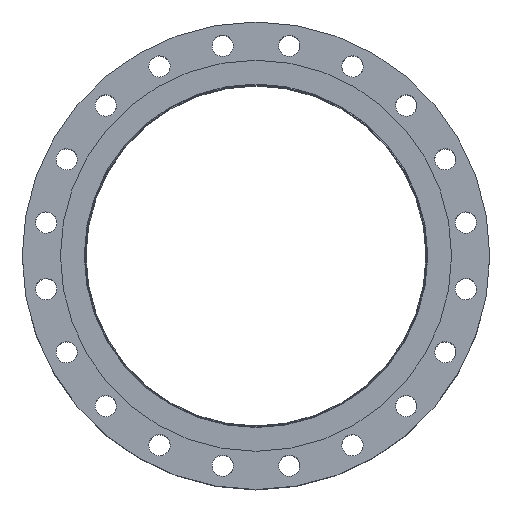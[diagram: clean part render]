
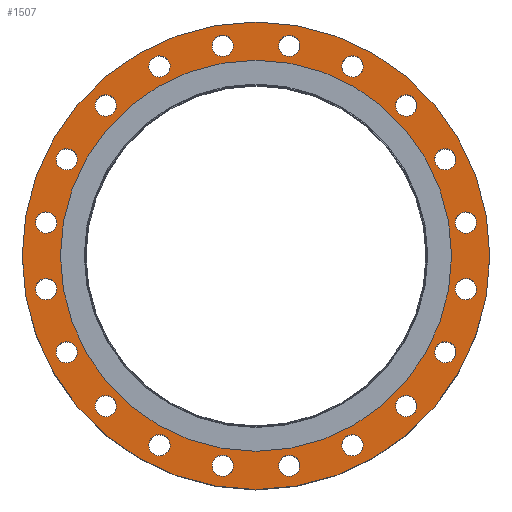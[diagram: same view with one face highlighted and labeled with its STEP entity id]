
A CAD part, top view. The second image highlights one B-rep face of the part: STEP entity #1507.
In plain terms, the highlighted planar face has unit normal (0, 0, 1).
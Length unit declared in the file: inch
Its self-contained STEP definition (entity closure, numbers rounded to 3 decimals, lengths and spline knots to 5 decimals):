
#96=FACE_BOUND('',#391,.T.);
#97=FACE_BOUND('',#392,.T.);
#98=FACE_BOUND('',#393,.T.);
#99=FACE_BOUND('',#394,.T.);
#100=FACE_BOUND('',#395,.T.);
#101=FACE_BOUND('',#396,.T.);
#102=FACE_BOUND('',#397,.T.);
#103=FACE_BOUND('',#398,.T.);
#104=FACE_BOUND('',#399,.T.);
#105=FACE_BOUND('',#400,.T.);
#106=FACE_BOUND('',#401,.T.);
#107=FACE_BOUND('',#402,.T.);
#108=FACE_BOUND('',#403,.T.);
#109=FACE_BOUND('',#404,.T.);
#110=FACE_BOUND('',#405,.T.);
#111=FACE_BOUND('',#406,.T.);
#112=FACE_BOUND('',#407,.T.);
#113=FACE_BOUND('',#408,.T.);
#114=FACE_BOUND('',#409,.T.);
#115=FACE_BOUND('',#410,.T.);
#116=FACE_BOUND('',#411,.T.);
#158=PLANE('',#1716);
#261=FACE_OUTER_BOUND('',#390,.T.);
#390=EDGE_LOOP('',(#1197));
#391=EDGE_LOOP('',(#1198));
#392=EDGE_LOOP('',(#1199));
#393=EDGE_LOOP('',(#1200));
#394=EDGE_LOOP('',(#1201));
#395=EDGE_LOOP('',(#1202));
#396=EDGE_LOOP('',(#1203));
#397=EDGE_LOOP('',(#1204));
#398=EDGE_LOOP('',(#1205));
#399=EDGE_LOOP('',(#1206));
#400=EDGE_LOOP('',(#1207));
#401=EDGE_LOOP('',(#1208));
#402=EDGE_LOOP('',(#1209));
#403=EDGE_LOOP('',(#1210));
#404=EDGE_LOOP('',(#1211));
#405=EDGE_LOOP('',(#1212));
#406=EDGE_LOOP('',(#1213));
#407=EDGE_LOOP('',(#1214));
#408=EDGE_LOOP('',(#1215));
#409=EDGE_LOOP('',(#1216));
#410=EDGE_LOOP('',(#1217));
#411=EDGE_LOOP('',(#1218));
#583=CIRCLE('',#1635,0.625);
#585=CIRCLE('',#1638,0.625);
#587=CIRCLE('',#1641,0.625);
#589=CIRCLE('',#1644,0.625);
#591=CIRCLE('',#1647,0.625);
#593=CIRCLE('',#1650,0.625);
#595=CIRCLE('',#1653,0.625);
#597=CIRCLE('',#1656,0.625);
#599=CIRCLE('',#1659,0.625);
#601=CIRCLE('',#1662,0.625);
#603=CIRCLE('',#1665,0.625);
#605=CIRCLE('',#1668,0.625);
#607=CIRCLE('',#1671,0.625);
#609=CIRCLE('',#1674,0.625);
#611=CIRCLE('',#1677,0.625);
#613=CIRCLE('',#1680,0.625);
#615=CIRCLE('',#1683,0.625);
#617=CIRCLE('',#1686,0.625);
#619=CIRCLE('',#1689,0.625);
#621=CIRCLE('',#1692,0.625);
#634=CIRCLE('',#1711,11.5);
#636=CIRCLE('',#1715,13.75);
#747=VERTEX_POINT('',#2530);
#749=VERTEX_POINT('',#2536);
#751=VERTEX_POINT('',#2542);
#753=VERTEX_POINT('',#2548);
#755=VERTEX_POINT('',#2554);
#757=VERTEX_POINT('',#2560);
#759=VERTEX_POINT('',#2566);
#761=VERTEX_POINT('',#2572);
#763=VERTEX_POINT('',#2578);
#765=VERTEX_POINT('',#2584);
#767=VERTEX_POINT('',#2590);
#769=VERTEX_POINT('',#2596);
#771=VERTEX_POINT('',#2602);
#773=VERTEX_POINT('',#2608);
#775=VERTEX_POINT('',#2614);
#777=VERTEX_POINT('',#2620);
#779=VERTEX_POINT('',#2626);
#781=VERTEX_POINT('',#2632);
#783=VERTEX_POINT('',#2638);
#785=VERTEX_POINT('',#2644);
#796=VERTEX_POINT('',#2676);
#798=VERTEX_POINT('',#2683);
#875=EDGE_CURVE('',#747,#747,#583,.T.);
#878=EDGE_CURVE('',#749,#749,#585,.T.);
#881=EDGE_CURVE('',#751,#751,#587,.T.);
#884=EDGE_CURVE('',#753,#753,#589,.T.);
#887=EDGE_CURVE('',#755,#755,#591,.T.);
#890=EDGE_CURVE('',#757,#757,#593,.T.);
#893=EDGE_CURVE('',#759,#759,#595,.T.);
#896=EDGE_CURVE('',#761,#761,#597,.T.);
#899=EDGE_CURVE('',#763,#763,#599,.T.);
#902=EDGE_CURVE('',#765,#765,#601,.T.);
#905=EDGE_CURVE('',#767,#767,#603,.T.);
#908=EDGE_CURVE('',#769,#769,#605,.T.);
#911=EDGE_CURVE('',#771,#771,#607,.T.);
#914=EDGE_CURVE('',#773,#773,#609,.T.);
#917=EDGE_CURVE('',#775,#775,#611,.T.);
#920=EDGE_CURVE('',#777,#777,#613,.T.);
#923=EDGE_CURVE('',#779,#779,#615,.T.);
#926=EDGE_CURVE('',#781,#781,#617,.T.);
#929=EDGE_CURVE('',#783,#783,#619,.T.);
#932=EDGE_CURVE('',#785,#785,#621,.T.);
#948=EDGE_CURVE('',#796,#796,#634,.T.);
#950=EDGE_CURVE('',#798,#798,#636,.T.);
#1197=ORIENTED_EDGE('',*,*,#950,.T.);
#1198=ORIENTED_EDGE('',*,*,#875,.T.);
#1199=ORIENTED_EDGE('',*,*,#878,.T.);
#1200=ORIENTED_EDGE('',*,*,#881,.T.);
#1201=ORIENTED_EDGE('',*,*,#884,.T.);
#1202=ORIENTED_EDGE('',*,*,#887,.T.);
#1203=ORIENTED_EDGE('',*,*,#890,.T.);
#1204=ORIENTED_EDGE('',*,*,#893,.T.);
#1205=ORIENTED_EDGE('',*,*,#896,.T.);
#1206=ORIENTED_EDGE('',*,*,#899,.T.);
#1207=ORIENTED_EDGE('',*,*,#902,.T.);
#1208=ORIENTED_EDGE('',*,*,#905,.T.);
#1209=ORIENTED_EDGE('',*,*,#908,.T.);
#1210=ORIENTED_EDGE('',*,*,#911,.T.);
#1211=ORIENTED_EDGE('',*,*,#914,.T.);
#1212=ORIENTED_EDGE('',*,*,#917,.T.);
#1213=ORIENTED_EDGE('',*,*,#920,.T.);
#1214=ORIENTED_EDGE('',*,*,#923,.T.);
#1215=ORIENTED_EDGE('',*,*,#926,.T.);
#1216=ORIENTED_EDGE('',*,*,#929,.T.);
#1217=ORIENTED_EDGE('',*,*,#932,.T.);
#1218=ORIENTED_EDGE('',*,*,#948,.T.);
#1507=ADVANCED_FACE('',(#261,#96,#97,#98,#99,#100,#101,#102,#103,#104,#105,
#106,#107,#108,#109,#110,#111,#112,#113,#114,#115,#116),#158,.T.);
#1635=AXIS2_PLACEMENT_3D('',#2531,#1927,#1928);
#1638=AXIS2_PLACEMENT_3D('',#2537,#1934,#1935);
#1641=AXIS2_PLACEMENT_3D('',#2543,#1941,#1942);
#1644=AXIS2_PLACEMENT_3D('',#2549,#1948,#1949);
#1647=AXIS2_PLACEMENT_3D('',#2555,#1955,#1956);
#1650=AXIS2_PLACEMENT_3D('',#2561,#1962,#1963);
#1653=AXIS2_PLACEMENT_3D('',#2567,#1969,#1970);
#1656=AXIS2_PLACEMENT_3D('',#2573,#1976,#1977);
#1659=AXIS2_PLACEMENT_3D('',#2579,#1983,#1984);
#1662=AXIS2_PLACEMENT_3D('',#2585,#1990,#1991);
#1665=AXIS2_PLACEMENT_3D('',#2591,#1997,#1998);
#1668=AXIS2_PLACEMENT_3D('',#2597,#2004,#2005);
#1671=AXIS2_PLACEMENT_3D('',#2603,#2011,#2012);
#1674=AXIS2_PLACEMENT_3D('',#2609,#2018,#2019);
#1677=AXIS2_PLACEMENT_3D('',#2615,#2025,#2026);
#1680=AXIS2_PLACEMENT_3D('',#2621,#2032,#2033);
#1683=AXIS2_PLACEMENT_3D('',#2627,#2039,#2040);
#1686=AXIS2_PLACEMENT_3D('',#2633,#2046,#2047);
#1689=AXIS2_PLACEMENT_3D('',#2639,#2053,#2054);
#1692=AXIS2_PLACEMENT_3D('',#2645,#2060,#2061);
#1711=AXIS2_PLACEMENT_3D('',#2678,#2101,#2102);
#1715=AXIS2_PLACEMENT_3D('',#2684,#2109,#2110);
#1716=AXIS2_PLACEMENT_3D('',#2686,#2112,#2113);
#1927=DIRECTION('center_axis',(0.,0.,-1.));
#1928=DIRECTION('ref_axis',(0.951,-0.309,0.));
#1934=DIRECTION('center_axis',(0.,0.,-1.));
#1935=DIRECTION('ref_axis',(0.809,-0.588,0.));
#1941=DIRECTION('center_axis',(0.,0.,-1.));
#1942=DIRECTION('ref_axis',(0.588,-0.809,0.));
#1948=DIRECTION('center_axis',(0.,0.,-1.));
#1949=DIRECTION('ref_axis',(0.309,-0.951,0.));
#1955=DIRECTION('center_axis',(0.,0.,-1.));
#1956=DIRECTION('ref_axis',(0.,-1.,0.));
#1962=DIRECTION('center_axis',(0.,0.,-1.));
#1963=DIRECTION('ref_axis',(-0.309,-0.951,0.));
#1969=DIRECTION('center_axis',(0.,0.,-1.));
#1970=DIRECTION('ref_axis',(-0.588,-0.809,0.));
#1976=DIRECTION('center_axis',(0.,0.,-1.));
#1977=DIRECTION('ref_axis',(-0.809,-0.588,0.));
#1983=DIRECTION('center_axis',(0.,0.,-1.));
#1984=DIRECTION('ref_axis',(-0.951,-0.309,0.));
#1990=DIRECTION('center_axis',(0.,0.,-1.));
#1991=DIRECTION('ref_axis',(-1.,0.,0.));
#1997=DIRECTION('center_axis',(0.,0.,-1.));
#1998=DIRECTION('ref_axis',(-0.951,0.309,0.));
#2004=DIRECTION('center_axis',(0.,0.,-1.));
#2005=DIRECTION('ref_axis',(-0.809,0.588,0.));
#2011=DIRECTION('center_axis',(0.,0.,-1.));
#2012=DIRECTION('ref_axis',(-0.588,0.809,0.));
#2018=DIRECTION('center_axis',(0.,0.,-1.));
#2019=DIRECTION('ref_axis',(-0.309,0.951,0.));
#2025=DIRECTION('center_axis',(0.,0.,-1.));
#2026=DIRECTION('ref_axis',(0.,1.,0.));
#2032=DIRECTION('center_axis',(0.,0.,-1.));
#2033=DIRECTION('ref_axis',(0.309,0.951,0.));
#2039=DIRECTION('center_axis',(0.,0.,-1.));
#2040=DIRECTION('ref_axis',(0.588,0.809,0.));
#2046=DIRECTION('center_axis',(0.,0.,-1.));
#2047=DIRECTION('ref_axis',(0.809,0.588,0.));
#2053=DIRECTION('center_axis',(0.,0.,-1.));
#2054=DIRECTION('ref_axis',(0.951,0.309,0.));
#2060=DIRECTION('center_axis',(0.,0.,-1.));
#2061=DIRECTION('ref_axis',(1.,0.,0.));
#2101=DIRECTION('center_axis',(0.,0.,-1.));
#2102=DIRECTION('ref_axis',(0.,1.,0.));
#2109=DIRECTION('center_axis',(0.,0.,1.));
#2110=DIRECTION('ref_axis',(1.,0.,0.));
#2112=DIRECTION('center_axis',(0.,0.,1.));
#2113=DIRECTION('ref_axis',(1.,0.,0.));
#2530=CARTESIAN_POINT('',(1.36102,12.53924,0.81));
#2531=CARTESIAN_POINT('Origin',(1.95543,12.3461,0.81));
#2536=CARTESIAN_POINT('',(5.16925,11.50495,0.81));
#2537=CARTESIAN_POINT('Origin',(5.67488,11.13758,0.81));
#2542=CARTESIAN_POINT('',(8.47147,9.34447,0.81));
#2543=CARTESIAN_POINT('Origin',(8.83883,8.83883,0.81));
#2548=CARTESIAN_POINT('',(10.94445,6.26929,0.81));
#2549=CARTESIAN_POINT('Origin',(11.13758,5.67488,0.81));
#2554=CARTESIAN_POINT('',(12.3461,2.58043,0.81));
#2555=CARTESIAN_POINT('Origin',(12.3461,1.95543,0.81));
#2560=CARTESIAN_POINT('',(12.53924,-1.36102,0.81));
#2561=CARTESIAN_POINT('Origin',(12.3461,-1.95543,0.81));
#2566=CARTESIAN_POINT('',(11.50495,-5.16925,0.81));
#2567=CARTESIAN_POINT('Origin',(11.13758,-5.67488,0.81));
#2572=CARTESIAN_POINT('',(9.34447,-8.47147,0.81));
#2573=CARTESIAN_POINT('Origin',(8.83883,-8.83883,0.81));
#2578=CARTESIAN_POINT('',(6.26929,-10.94445,0.81));
#2579=CARTESIAN_POINT('Origin',(5.67488,-11.13758,0.81));
#2584=CARTESIAN_POINT('',(2.58043,-12.3461,0.81));
#2585=CARTESIAN_POINT('Origin',(1.95543,-12.3461,0.81));
#2590=CARTESIAN_POINT('',(-1.36102,-12.53924,0.81));
#2591=CARTESIAN_POINT('Origin',(-1.95543,-12.3461,0.81));
#2596=CARTESIAN_POINT('',(-5.16925,-11.50495,0.81));
#2597=CARTESIAN_POINT('Origin',(-5.67488,-11.13758,0.81));
#2602=CARTESIAN_POINT('',(-8.47147,-9.34447,0.81));
#2603=CARTESIAN_POINT('Origin',(-8.83883,-8.83883,0.81));
#2608=CARTESIAN_POINT('',(-10.94445,-6.26929,0.81));
#2609=CARTESIAN_POINT('Origin',(-11.13758,-5.67488,0.81));
#2614=CARTESIAN_POINT('',(-12.3461,-2.58043,0.81));
#2615=CARTESIAN_POINT('Origin',(-12.3461,-1.95543,0.81));
#2620=CARTESIAN_POINT('',(-12.53924,1.36102,0.81));
#2621=CARTESIAN_POINT('Origin',(-12.3461,1.95543,0.81));
#2626=CARTESIAN_POINT('',(-11.50495,5.16925,0.81));
#2627=CARTESIAN_POINT('Origin',(-11.13758,5.67488,0.81));
#2632=CARTESIAN_POINT('',(-9.34447,8.47147,0.81));
#2633=CARTESIAN_POINT('Origin',(-8.83883,8.83883,0.81));
#2638=CARTESIAN_POINT('',(-6.26929,10.94445,0.81));
#2639=CARTESIAN_POINT('Origin',(-5.67488,11.13758,0.81));
#2644=CARTESIAN_POINT('',(-2.58043,12.3461,0.81));
#2645=CARTESIAN_POINT('Origin',(-1.95543,12.3461,0.81));
#2676=CARTESIAN_POINT('',(0.,-11.5,0.81));
#2678=CARTESIAN_POINT('Origin',(0.,0.,0.81));
#2683=CARTESIAN_POINT('',(0.,-13.75,0.81));
#2684=CARTESIAN_POINT('Origin',(0.,0.,0.81));
#2686=CARTESIAN_POINT('Origin',(0.,10.1,0.81));
